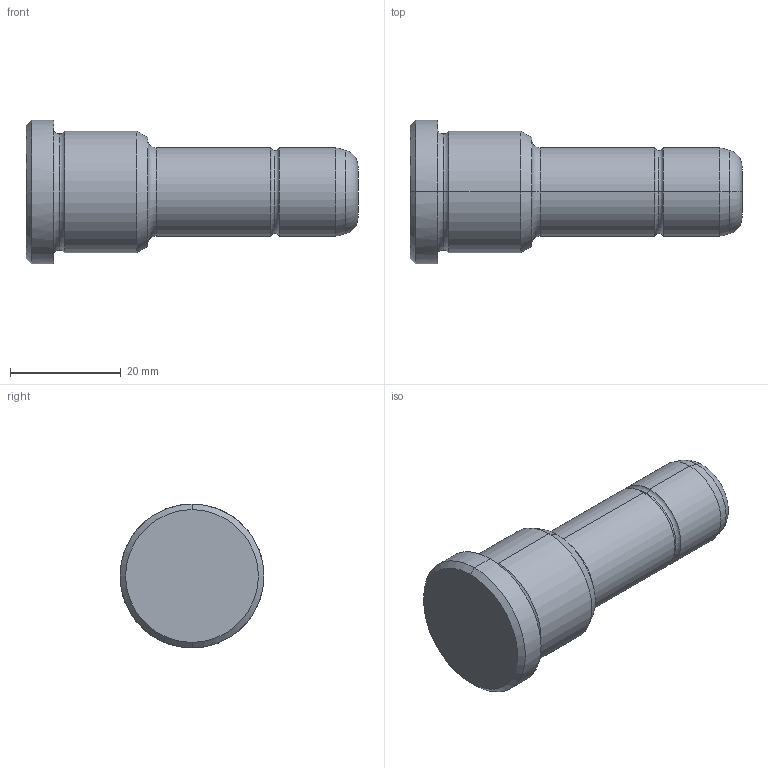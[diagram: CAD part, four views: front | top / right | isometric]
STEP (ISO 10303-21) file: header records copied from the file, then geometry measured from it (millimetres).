
FILE_DESCRIPTION(('CATIA V5 STEP Exchange'),'2;1');
FILE_NAME('C:\Users\Utente\Desktop\IO LAVORO\3D X SITO CF\X SITO\PLASTICA\351\351-16X22X60.stp','2021-08-18T10:58:56+00:00',('none'),('none'),'CATIA Version 5 Release 20 GA (IN-10)','CATIA V5 STEP AP203','none');
FILE_SCHEMA(('CONFIG_CONTROL_DESIGN'));
Length unit declared in the file: millimetre
Products named in the file (1): 351-16X22X60
Bounding box: 60 x 26 x 26 mm (x, y, z)
Volume: 16445.7 mm3; surface area: 4358.5 mm2
Topology: 1 solids, 1 shells, 30 faces, 86 edges, 60 vertices
Faces by surface type: torus 12, cylinder 8, cone 6, plane 4
Entity records: 1112 total; most frequent: CARTESIAN_POINT 289, ORIENTED_EDGE 172, DIRECTION 138, AXIS2_PLACEMENT_3D 95, EDGE_CURVE 86, CIRCLE 64, VERTEX_POINT 60, EDGE_LOOP 32
